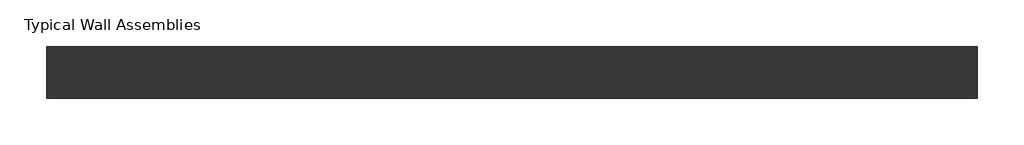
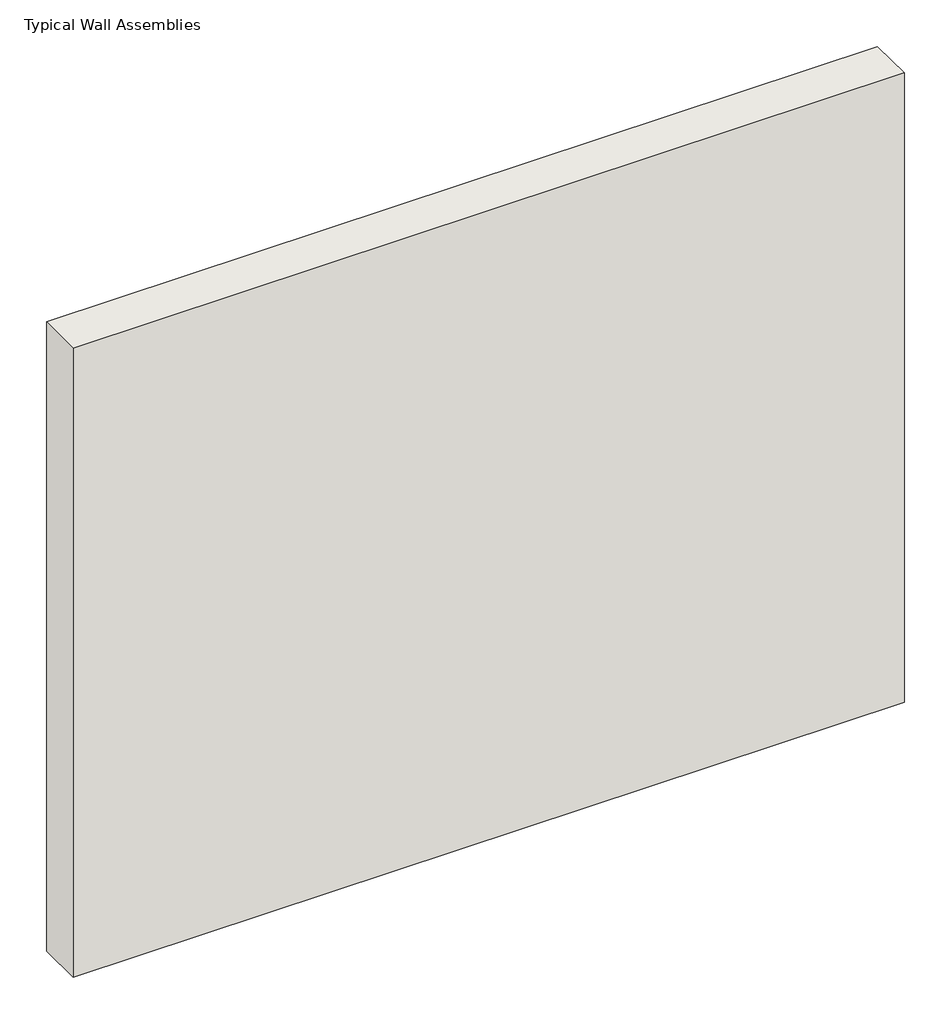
# One storey: 1 wall.
"""IFC4 building model written with IfcOpenShell, lengths in millimetres."""

from ifc_helpers import new_model, si_unit, frame, origin, place, context, project, spatial, polyline, outline, extrude, element, save

model = new_model("IFC4")

# Units and contexts
model_context = context("Model", 3, world=origin())
ifc_project = project(units=[si_unit("LENGTHUNIT", "METRE", prefix="MILLI")], contexts=[model_context])

# Site, building, storey
site = spatial("IfcSite", under=ifc_project)
building = spatial("IfcBuilding", under=site)
storey = spatial("IfcBuildingStorey", under=building, Name="Typical Wall Assemblies", Elevation=6096.0)

# Wall
placement = place(None, origin())
element("IfcWall", 1, ObjectType="Noble Company_NobleSeal-TS_5 ft over Framing as Specified", at=placement, inside=storey, context=model_context, shape_type="SweptSolid", body=[
    extrude(outline(polyline([(-21027.125069, 17128.0977456), (-24075.125069, 17128.0977456), (-24075.125069, 17297.0712494), (-21027.125069, 17297.0712494), (-21027.125069, 17128.0977456)])), frame((0.0, 0.0, 6096.0), z_axis=(0.0, 0.0, 1.0), x_axis=(1.0, 0.0, 0.0)), (0.0, 0.0, 1.0), 2438.4),
])

save(model, "model.ifc")
